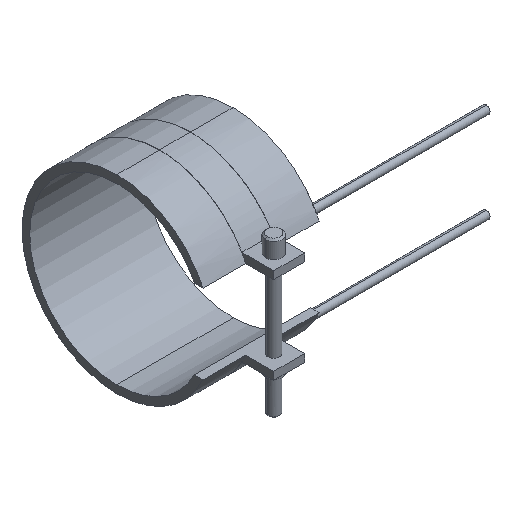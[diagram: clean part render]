
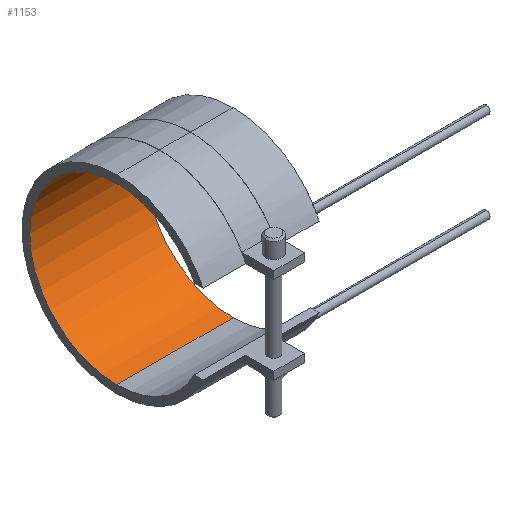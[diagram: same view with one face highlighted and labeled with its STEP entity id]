
A CAD part, isometric view. The second image highlights one B-rep face of the part: STEP entity #1153.
In plain terms, the highlighted cylindrical face has radius 45 mm (diameter 90 mm), a partial arc.
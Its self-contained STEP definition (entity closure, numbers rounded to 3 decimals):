
#834=CARTESIAN_POINT('Vertex',(-30.,0.,-45.)) ;
#841=CARTESIAN_POINT('Vertex',(30.,0.,-45.)) ;
#844=CARTESIAN_POINT('Line Origine',(30.,0.,-45.)) ;
#862=CARTESIAN_POINT('Axis2P3D Location',(-30.,0.,0.)) ;
#866=CARTESIAN_POINT('Vertex',(-30.,0.,45.)) ;
#923=CARTESIAN_POINT('Vertex',(30.,0.,45.)) ;
#933=CARTESIAN_POINT('Line Origine',(30.,0.,45.)) ;
#1024=CARTESIAN_POINT('Axis2P3D Location',(30.,0.,0.)) ;
#1142=CARTESIAN_POINT('Axis2P3D Location',(30.,0.,0.)) ;
#845=DIRECTION('Vector Direction',(1.,0.,0.)) ;
#863=DIRECTION('Axis2P3D Direction',(1.,0.,0.)) ;
#934=DIRECTION('Vector Direction',(1.,0.,0.)) ;
#1025=DIRECTION('Axis2P3D Direction',(1.,0.,0.)) ;
#1143=DIRECTION('Axis2P3D Direction',(1.,0.,-0.)) ;
#1144=DIRECTION('Axis2P3D XDirection',(0.,0.,-1.)) ;
#864=AXIS2_PLACEMENT_3D('Circle Axis2P3D',#862,#863,$) ;
#1026=AXIS2_PLACEMENT_3D('Circle Axis2P3D',#1024,#1025,$) ;
#1145=AXIS2_PLACEMENT_3D('Cylinder Axis2P3D',#1142,#1143,#1144) ;
#1148=ORIENTED_EDGE('',*,*,#1028,.T.) ;
#1149=ORIENTED_EDGE('',*,*,#937,.T.) ;
#1150=ORIENTED_EDGE('',*,*,#868,.F.) ;
#1151=ORIENTED_EDGE('',*,*,#848,.T.) ;
#846=VECTOR('Line Direction',#845,1.) ;
#935=VECTOR('Line Direction',#934,1.) ;
#1153=ADVANCED_FACE('14090060',(#1152),#1146,.F.) ;
#865=CIRCLE('generated circle',#864,45.) ;
#1027=CIRCLE('generated circle',#1026,45.) ;
#1146=CYLINDRICAL_SURFACE('generated cylinder',#1145,45.) ;
#848=EDGE_CURVE('',#835,#842,#847,.T.) ;
#868=EDGE_CURVE('',#835,#867,#865,.T.) ;
#937=EDGE_CURVE('',#924,#867,#936,.F.) ;
#1028=EDGE_CURVE('',#842,#924,#1027,.T.) ;
#1147=EDGE_LOOP('',(#1148,#1149,#1150,#1151)) ;
#1152=FACE_OUTER_BOUND('',#1147,.T.) ;
#847=LINE('Line',#844,#846) ;
#936=LINE('Line',#933,#935) ;
#835=VERTEX_POINT('',#834) ;
#842=VERTEX_POINT('',#841) ;
#867=VERTEX_POINT('',#866) ;
#924=VERTEX_POINT('',#923) ;
